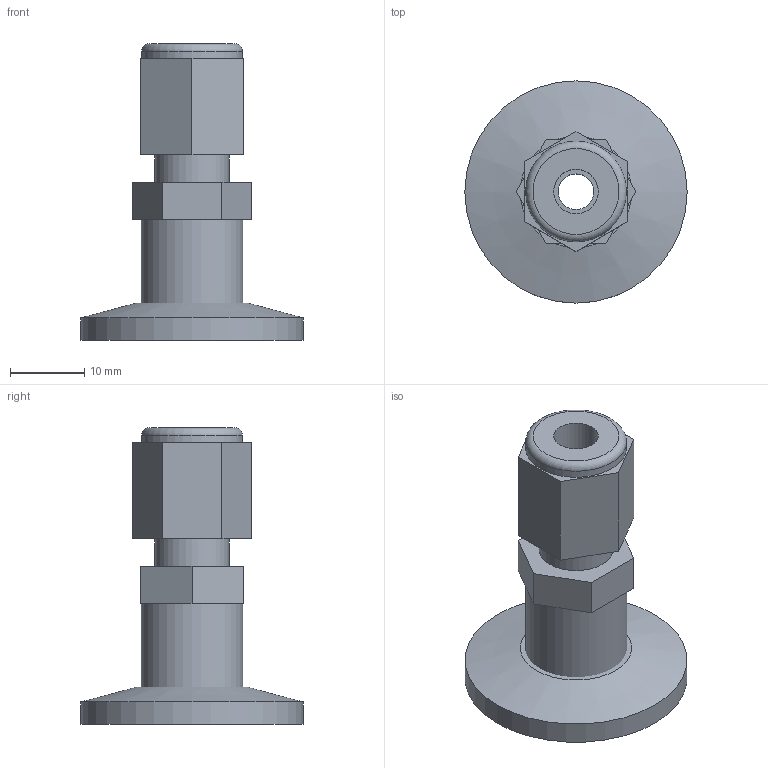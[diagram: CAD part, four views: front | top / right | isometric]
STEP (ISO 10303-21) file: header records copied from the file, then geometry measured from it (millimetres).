
FILE_DESCRIPTION( ( 'Unknown' ), '1' );
FILE_NAME( 'X:/Daten ( aktueller Bestand )/Projekte und Zeichnungen/Solid Edge/STP-Dateien/Adapter KF/1821-6.stp', 'Unknown', ( 'Unknown' ), ( 'Unknown' ), 'PSStep 14.0', 'Unknown', ' ' );
FILE_SCHEMA( ( 'AUTOMOTIVE_DESIGN { 1 0 10303 214 1 1 1 1 }' ) );
Length unit declared in the file: millimetre
Products named in the file (3): Assem1; 6x1-4; 1821- 1-2
Assembly tree (2 placements, depth 2):
  Assem1
    6x1-4
    1821- 1-2
Bounding box: 30 x 30 x 40 mm (x, y, z)
Volume: 6932.3 mm3; surface area: 4477.4 mm2
Topology: 2 solids, 2 shells, 32 faces, 65 edges, 43 vertices
Faces by surface type: plane 22, cylinder 8, torus 1, cone 1
Full cylindrical faces by diameter (mm): 4.8 x1, 6 x1, 10 x1, 12.7 x1, 13.6 x1, 13.7 x1, 17.2 x1, 30 x1
Entity records: 1098 total; most frequent: DIRECTION 142, CARTESIAN_POINT 131, ORIENTED_EDGE 108, EDGE_CURVE 54, AXIS2_PLACEMENT_3D 53, EDGE_LOOP 52, VERTEX_POINT 42, FACE_OUTER_BOUND 41
